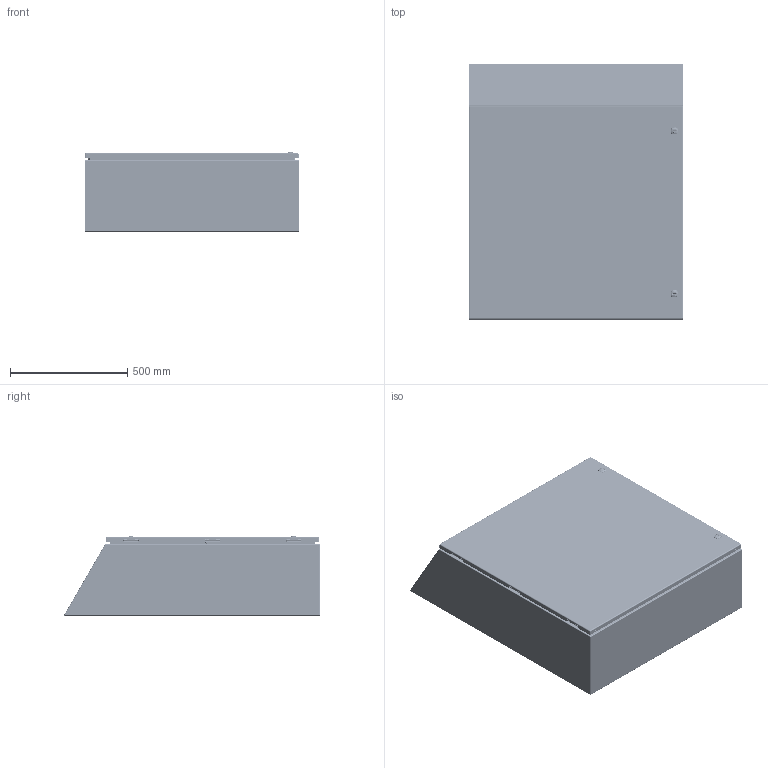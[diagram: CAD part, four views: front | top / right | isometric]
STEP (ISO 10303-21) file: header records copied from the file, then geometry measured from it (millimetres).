
FILE_DESCRIPTION(/* description */ ('5412ESCS 36" x 36" x 12" Assembly'),/* implementation_level */ '2;1');
FILE_NAME(/* name */ 'C:\Vault_Workspace\Inventor_Dwg\BoxCad\Result\5412ESCS363612\e-mail\3D\5412ESCS363612.stp',/* time_stamp */ '2022-03-10T16:20:32-05:00',/* author */ ('BoxCad'),/* organization */ (''),/* preprocessor_version */ 'ST-DEVELOPER v18.1',/* originating_system */ 'Autodesk Inventor 2020',/* authorisation */ '');
FILE_SCHEMA (('AUTOMOTIVE_DESIGN { 1 0 10303 214 3 1 1 }'));
Products named in the file (53): 5412ESCS363612; 5412ESCS363612B; 5412ESCS363612B-P; STK-Q-16005; STUD_M6 x 16mm; STK-Q-07610; 881SP3636G; 881SP3636G-P; STK-Q-07310; 5412ESCS363612C; 5412ESCS363612C-P; 5412ESCS363612G; STK-K-09800; STK-K-09800-2; STK-K-09800-3; STK-Q-33014; STK-Q-90398; STK-Q-40095; STK-Q-63410; STK-Q-46020-36; STK-Q-46025-36; STK-Q-07220-1; STK-Q-07220-2; STK-Q-07220-3; STK-Q-07220-4; STK-Q-07220-7; STK-Q-07220-8; STK-Q-07220-9; STK-Q-07220-10; STK-Q-07220-A; STK-Q-07220-B; STK-Q-16055; STK-Q-46515-1; STK-Q-46515-B; STK-Q-46515-A; STK-P-02400S; STK-A-880SCQ4-SL-1; STK-A-880SCQ4-SL-2; STK-Q-78110; STK-Q-78120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
Assembly tree (124 placements, depth 4):
  5412ESCS363612
    5412ESCS363612B
      5412ESCS363612B-P
      STK-Q-16005  x8
      STK-P-02400S
      STUD_M6 x 16mm
    STK-Q-07610  x8
    881SP3636G
      881SP3636G-P
    STK-Q-07310  x8
    5412ESCS363612C
      5412ESCS363612C-P
      5412ESCS363612G
      STK-K-09800
        STK-Q-33014
        STK-Q-90398
        STK-Q-40095  x2
        STK-Q-63410  x2
      STK-K-09800-2
        STK-Q-33014
        STK-Q-90398
        STK-Q-40095  x2
        STK-Q-63410  x2
      STK-K-09800-3
        STK-Q-33014
        STK-Q-90398
        STK-Q-40095  x2
        STK-Q-63410  x2
      STK-Q-16055  x9
      STK-Q-46020-36  x2
      STK-Q-46025-36  x2
      STK-Q-07220-1
        STK-Q-07220-A
        STK-Q-07220-B
      STK-Q-07220-2
        STK-Q-07220-A
        STK-Q-07220-B
      STK-Q-07220-3
        STK-Q-07220-A
        STK-Q-07220-B
      STK-Q-07220-4
        STK-Q-07220-A
        STK-Q-07220-B
      STK-Q-07220-7
        STK-Q-07220-A
        STK-Q-07220-B
      STK-Q-07220-8
        STK-Q-07220-A
        STK-Q-07220-B
      STK-Q-07220-9
        STK-Q-07220-A
        STK-Q-07220-B
      STK-Q-07220-10
        STK-Q-07220-A
        STK-Q-07220-B
      STK-Q-46515-1
        STK-Q-46515-B
        STK-Q-46515-A
      STK-P-02400S
      STK-A-880SCQ4-SL-1
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Bounding box: 914.85 x 1088.52 x 337.57 mm (x, y, z)
Volume: 8122054.2 mm3; surface area: 8554807.5 mm2
Topology: 100 solids, 100 shells, 16311 faces, 44407 edges, 28479 vertices
Faces by surface type: bspline 6162, cylinder 4329, plane 4209, torus 1043, sphere 288, cone 280
Full cylindrical faces by diameter (mm): 0 x1, 0.75 x18, 0.762 x18, 1 x12, 1.1 x12, 3.2 x6, 4.191 x124, 4.5 x9, 4.521 x12, 4.75 x2, 4.85 x24, 4.95 x6, 5 x8, 5.1 x49, 5.105 x13, 5.6 x3, 5.9 x35, 6.015 x124, 6.65 x8, 6.8 x8, 6.85 x32, 7.3 x3, 7.366 x4, 7.468 x2, 7.9 x16, 8 x24, 8.382 x3, 9.5 x8, 9.6 x2, 9.654 x1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
Entity records: 186672 total; most frequent: CARTESIAN_POINT 72071, ORIENTED_EDGE 25688, DIRECTION 19867, EDGE_CURVE 12844, VERTEX_POINT 8198, AXIS2_PLACEMENT_3D 7248, EDGE_LOOP 5404, LINE 5371
